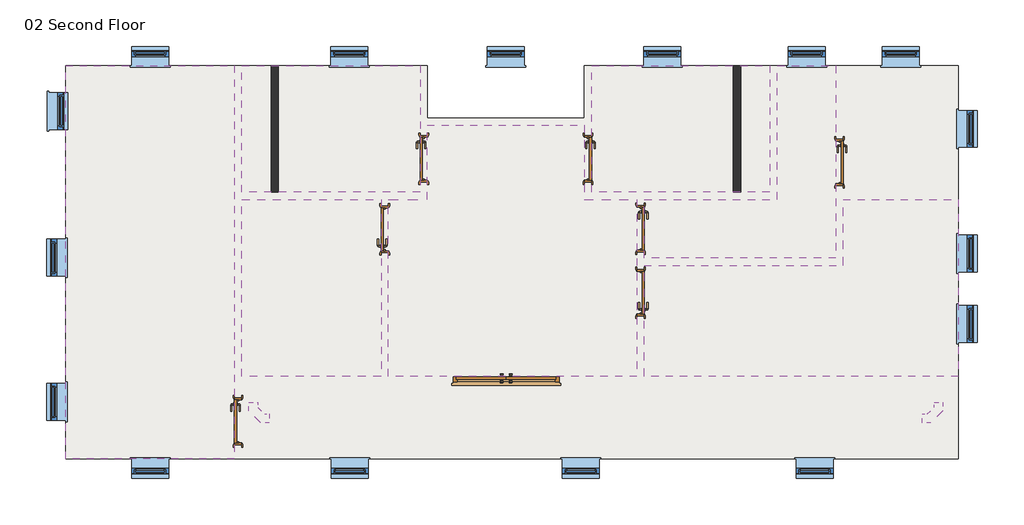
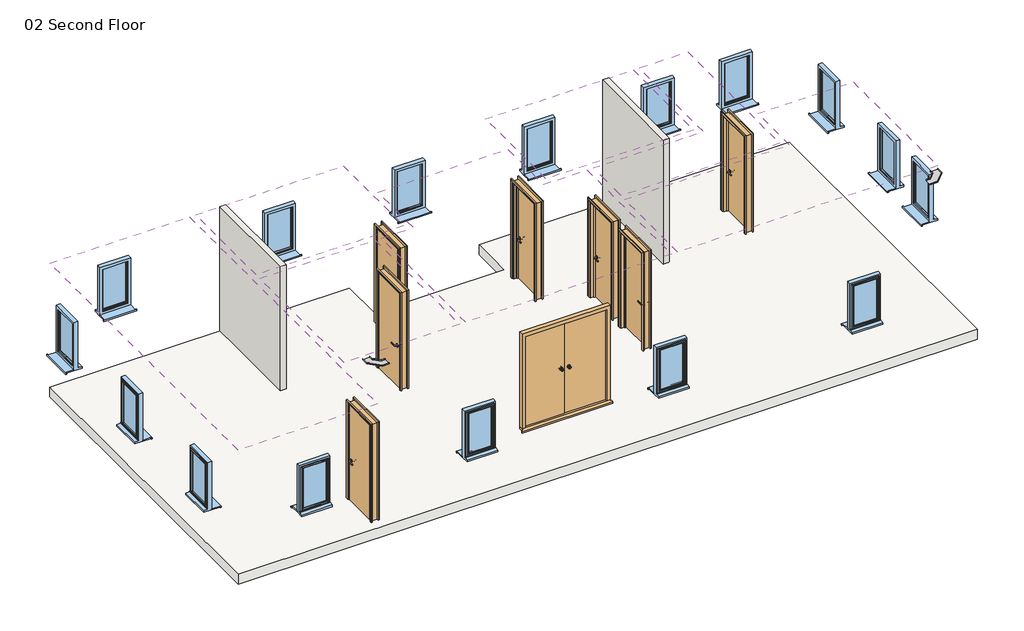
# One storey: 16 windows, 8 doors, 7 coverings, 2 cable carrier fittings, 2 walls, 1 slab.
"""IFC4 building model written with IfcOpenShell, lengths in millimetres."""

from ifc_helpers import new_model, si_unit, frame, origin, place, context, project, spatial, polyline, outline, extrude, transform, mapped, element, save
from components import cable_tray_horizontal_bend_standard_cea69160, extdbl_flush_1810_x_2110mm_182ebfd7, intsgl_1_810_x_2110mm_5ef26f82, intsgl_1_810_x_2110mm_60c2a13c, sgl_plain_630_x_1050mm_deep_554a1539

model = new_model("IFC4")

# Units and contexts
model_context = context("Model", 3, world=origin())
ifc_project = project(units=[si_unit("LENGTHUNIT", "METRE", prefix="MILLI")], contexts=[model_context])

# Site, building, storey
site = spatial("IfcSite", under=ifc_project)
building = spatial("IfcBuilding", under=site)
storey = spatial("IfcBuildingStorey", under=building, Name="02 Second Floor", Elevation=4000.0)

# Cable carrier fittings
placement = place(None, origin())
cable_tray_horizontal_bend_standard_shape = cable_tray_horizontal_bend_standard_cea69160(model_context)
element("IfcCableCarrierFitting", 1, ObjectType="Cable Tray Horizontal Bend : Standard", at=placement, inside=storey, context=model_context, shape_type="MappedRepresentation", body=[
    mapped(cable_tray_horizontal_bend_standard_shape, transform((8567.076402, -4128.3205251, 7000.0), x_axis=(1.0, 0.0, 0.0), y_axis=(0.0, 1.0, 0.0), z_axis=(0.0, 0.0, 1.0))),
])
element("IfcCableCarrierFitting", 2, ObjectType="Cable Tray Horizontal Bend : Standard", at=placement, inside=storey, context=model_context, shape_type="MappedRepresentation", body=[
    mapped(cable_tray_horizontal_bend_standard_shape, transform((-3112.923598, -4128.3205251, 7000.0), x_axis=(0.0, -1.0, 0.0), y_axis=(1.0, 0.0, 0.0), z_axis=(0.0, 0.0, 1.0))),
])

# Coverings
element("IfcCovering", 3, ObjectType="600 x 600mm grid 2", at=placement, inside=storey, context=model_context, shape_type="SweptSolid", body=[
    extrude(outline(polyline([(-3433.0198612, 1889.6075821), (-3433.0198612, -4820.3924179), (-6308.0198612, -4820.3924179), (-6308.0198612, 1889.6075821), (-3433.0198612, 1889.6075821)])), frame((0.0, 0.0, 6700.0), z_axis=(0.0, 0.0, 1.0), x_axis=(1.0, 0.0, 0.0)), (0.0, 0.0, 1.0), 52.0),
])
element("IfcCovering", 4, ObjectType="600 x 600mm grid 2", at=placement, inside=storey, context=model_context, shape_type="SweptSolid", body=[
    extrude(outline(polyline([(-3308.0198612, 1889.6075821), (-270.5198612, 1889.6075821), (-270.5198612, -265.3924179), (-3308.0198612, -265.3924179), (-3308.0198612, 1889.6075821)])), frame((0.0, 0.0, 6700.0), z_axis=(0.0, 0.0, 1.0), x_axis=(1.0, 0.0, 0.0)), (0.0, 0.0, 1.0), 52.0),
])
element("IfcCovering", 5, ObjectType="600 x 600mm grid 2", at=placement, inside=storey, context=model_context, shape_type="SweptSolid", body=[
    extrude(outline(polyline([(-3308.0198612, -390.3924179), (-933.0198612, -390.3924179), (-933.0198612, -3407.8924179), (-3308.0198612, -3407.8924179), (-3308.0198612, -390.3924179)])), frame((0.0, 0.0, 6700.0), z_axis=(0.0, 0.0, 1.0), x_axis=(1.0, 0.0, 0.0)), (0.0, 0.0, 1.0), 52.0),
])
element("IfcCovering", 6, ObjectType="600 x 600mm grid 2", at=placement, inside=storey, context=model_context, shape_type="SweptSolid", body=[
    extrude(outline(polyline([(-808.0198612, -390.3924179), (-145.5198612, -390.3924179), (-145.5198612, 872.1075821), (2529.4801388, 872.1075821), (2529.4801388, -390.3924179), (3426.9801388, -390.3924179), (3426.9801388, -3407.8924179), (-808.0198612, -3407.8924179), (-808.0198612, -390.3924179)])), frame((0.0, 0.0, 6700.0), z_axis=(0.0, 0.0, 1.0), x_axis=(1.0, 0.0, 0.0)), (0.0, 0.0, 1.0), 52.0),
])
element("IfcCovering", 7, ObjectType="600 x 600mm grid 2", at=placement, inside=storey, context=model_context, shape_type="SweptSolid", body=[
    extrude(outline(polyline([(2654.4801388, 1889.6075821), (5691.9801388, 1889.6075821), (5691.9801388, -265.3924179), (2654.4801388, -265.3924179), (2654.4801388, 1889.6075821)])), frame((0.0, 0.0, 6700.0), z_axis=(0.0, 0.0, 1.0), x_axis=(1.0, 0.0, 0.0)), (0.0, 0.0, 1.0), 52.0),
])
element("IfcCovering", 8, ObjectType="600 x 600mm grid 2", at=placement, inside=storey, context=model_context, shape_type="SweptSolid", body=[
    extrude(outline(polyline([(5816.9801388, 1889.6075821), (6816.9801388, 1889.6075821), (6816.9801388, -1390.3924179), (3551.9801388, -1390.3924179), (3551.9801388, -390.3924179), (5816.9801388, -390.3924179), (5816.9801388, 1889.6075821)])), frame((0.0, 0.0, 6700.0), z_axis=(0.0, 0.0, 1.0), x_axis=(1.0, 0.0, 0.0)), (0.0, 0.0, 1.0), 52.0),
])
element("IfcCovering", 9, ObjectType="600 x 600mm grid 2", at=placement, inside=storey, context=model_context, shape_type="SweptSolid", body=[
    extrude(outline(polyline([(8901.9801388, -390.3924179), (8901.9801388, -3407.8924179), (3551.9801388, -3407.8924179), (3551.9801388, -1515.3924179), (6941.9801388, -1515.3924179), (6941.9801388, -390.3924179), (8901.9801388, -390.3924179)])), frame((0.0, 0.0, 6700.0), z_axis=(0.0, 0.0, 1.0), x_axis=(1.0, 0.0, 0.0)), (0.0, 0.0, 1.0), 52.0),
])

# Doors
extdbl_flush_1810_x_2110mm_shape = extdbl_flush_1810_x_2110mm_182ebfd7(model_context)
element("IfcDoor", 10, ObjectType="ExtDbl Flush : 1810 x 2110mm", at=placement, inside=storey, context=model_context, shape_type="MappedRepresentation", body=[
    mapped(extdbl_flush_1810_x_2110mm_shape, transform((1196.9801388, -3470.3924179, 4000.0), x_axis=(1.0, 0.0, 0.0), y_axis=(0.0, 1.0, 0.0), z_axis=(0.0, 0.0, 1.0))),
])
intsgl_1_810_x_2110mm_shape = intsgl_1_810_x_2110mm_5ef26f82(model_context)
element("IfcDoor", 11, ObjectType="IntSgl (1) : 810 x 2110mm", at=placement, inside=storey, context=model_context, shape_type="MappedRepresentation", body=[
    mapped(intsgl_1_810_x_2110mm_shape, transform((-208.0198612, 303.3575821, 4000.0), x_axis=(0.0, -1.0, 0.0), y_axis=(1.0, 0.0, 0.0), z_axis=(0.0, 0.0, 1.0))),
])
element("IfcDoor", 12, ObjectType="IntSgl (1) : 810 x 2110mm", at=placement, inside=storey, context=model_context, shape_type="MappedRepresentation", body=[
    mapped(intsgl_1_810_x_2110mm_shape, transform((3489.4801388, -1982.8924179, 4000.0), x_axis=(0.0, 1.0, 0.0), y_axis=(-1.0, 0.0, 0.0), z_axis=(0.0, 0.0, 1.0))),
])
intsgl_1_810_x_2110mm_2_shape = intsgl_1_810_x_2110mm_60c2a13c(model_context)
element("IfcDoor", 13, ObjectType="IntSgl (1) : 810 x 2110mm", at=placement, inside=storey, context=model_context, shape_type="MappedRepresentation", body=[
    mapped(intsgl_1_810_x_2110mm_2_shape, transform((2591.9801388, 303.3575821, 4000.0), x_axis=(0.0, -1.0, 0.0), y_axis=(1.0, 0.0, 0.0), z_axis=(0.0, 0.0, 1.0))),
])
element("IfcDoor", 14, ObjectType="IntSgl (1) : 810 x 2110mm", at=placement, inside=storey, context=model_context, shape_type="MappedRepresentation", body=[
    mapped(intsgl_1_810_x_2110mm_2_shape, transform((-870.5198612, -902.8924179, 4000.0), x_axis=(0.0, 1.0, 0.0), y_axis=(-1.0, 0.0, 0.0), z_axis=(0.0, 0.0, 1.0))),
])
element("IfcDoor", 15, ObjectType="IntSgl (1) : 810 x 2110mm", at=placement, inside=storey, context=model_context, shape_type="MappedRepresentation", body=[
    mapped(intsgl_1_810_x_2110mm_2_shape, transform((3489.4801388, -890.3924179, 4000.0), x_axis=(0.0, -1.0, 0.0), y_axis=(1.0, 0.0, 0.0), z_axis=(0.0, 0.0, 1.0))),
])
element("IfcDoor", 16, ObjectType="IntSgl (1) : 810 x 2110mm", at=placement, inside=storey, context=model_context, shape_type="MappedRepresentation", body=[
    mapped(intsgl_1_810_x_2110mm_shape, transform((-3370.5198612, -4176.6424179, 4000.0), x_axis=(0.0, -1.0, 0.0), y_axis=(1.0, 0.0, 0.0), z_axis=(0.0, 0.0, 1.0))),
])
element("IfcDoor", 17, ObjectType="IntSgl (1) : 810 x 2110mm", at=placement, inside=storey, context=model_context, shape_type="MappedRepresentation", body=[
    mapped(intsgl_1_810_x_2110mm_2_shape, transform((6879.4801388, 239.6075821, 4000.0), x_axis=(0.0, -1.0, 0.0), y_axis=(1.0, 0.0, 0.0), z_axis=(0.0, 0.0, 1.0))),
])

# Slab
element("IfcSlab", 18, ObjectType="160mm Concrete with Corus-ComFlor 51", at=placement, inside=storey, context=model_context, shape_type="SweptSolid", body=[
    extrude(outline(polyline([(8901.9801388, -4820.3924179), (-6308.0198612, -4820.3924179), (-6308.0198612, 1889.6075821), (-145.5198612, 1889.6075821), (-145.5198612, 997.1075821), (2529.4801388, 997.1075821), (2529.4801388, 1889.6075821), (8901.9801388, 1889.6075821), (8901.9801388, -4820.3924179)])), frame((0.0, 0.0, 3789.0), z_axis=(0.0, 0.0, 1.0), x_axis=(1.0, 0.0, 0.0)), (0.0, 0.0, 1.0), 211.0),
])

# Walls
element("IfcWall", 19, ObjectType="Partn - p 100 p - Block", at=placement, inside=storey, context=model_context, shape_type="SweptSolid", body=[
    extrude(outline(polyline([(5066.9801388, -265.3924179), (5066.9801388, 1889.6075821), (5191.9801388, 1889.6075821), (5191.9801388, -265.3924179), (5066.9801388, -265.3924179)])), frame((0.0, 0.0, 4000.0), z_axis=(0.0, 0.0, 1.0), x_axis=(1.0, 0.0, 0.0)), (0.0, 0.0, 1.0), 2700.0),
])
element("IfcWall", 20, ObjectType="Partn - p 100 p - Block", at=placement, inside=storey, context=model_context, shape_type="SweptSolid", body=[
    extrude(outline(polyline([(-2683.0198612, 1889.6075821), (-2683.0198612, -265.3924179), (-2808.0198612, -265.3924179), (-2808.0198612, 1889.6075821), (-2683.0198612, 1889.6075821)])), frame((0.0, 0.0, 4000.0), z_axis=(0.0, 0.0, 1.0), x_axis=(1.0, 0.0, 0.0)), (0.0, 0.0, 1.0), 2700.0),
])

# Windows
sgl_plain_630_x_1050mm_deep_shape = sgl_plain_630_x_1050mm_deep_554a1539(model_context)
element("IfcWindow", 21, ObjectType="Sgl Plain : 630 x 1050mm Deep", at=placement, inside=storey, context=model_context, shape_type="MappedRepresentation", body=[
    mapped(sgl_plain_630_x_1050mm_deep_shape, transform((-6461.476429, 1117.4075821, 4000.0), x_axis=(0.0, -1.0, 0.0), y_axis=(1.0, 0.0, 0.0), z_axis=(0.0, 0.0, 1.0))),
])
element("IfcWindow", 22, ObjectType="Sgl Plain : 630 x 1050mm Deep", at=placement, inside=storey, context=model_context, shape_type="MappedRepresentation", body=[
    mapped(sgl_plain_630_x_1050mm_deep_shape, transform((6453.3801388, -4956.9358501, 4000.0), x_axis=(-1.0, 0.0, 0.0), y_axis=(0.0, -1.0, 0.0), z_axis=(0.0, 0.0, 1.0))),
])
element("IfcWindow", 23, ObjectType="Sgl Plain : 630 x 1050mm Deep", at=placement, inside=storey, context=model_context, shape_type="MappedRepresentation", body=[
    mapped(sgl_plain_630_x_1050mm_deep_shape, transform((2470.5801388, -4956.9358501, 4000.0), x_axis=(-1.0, 0.0, 0.0), y_axis=(0.0, -1.0, 0.0), z_axis=(0.0, 0.0, 1.0))),
])
element("IfcWindow", 24, ObjectType="Sgl Plain : 630 x 1050mm Deep", at=placement, inside=storey, context=model_context, shape_type="MappedRepresentation", body=[
    mapped(sgl_plain_630_x_1050mm_deep_shape, transform((-1469.0198612, -4956.9358501, 4000.0), x_axis=(-1.0, 0.0, 0.0), y_axis=(0.0, -1.0, 0.0), z_axis=(0.0, 0.0, 1.0))),
])
element("IfcWindow", 25, ObjectType="Sgl Plain : 630 x 1050mm Deep", at=placement, inside=storey, context=model_context, shape_type="MappedRepresentation", body=[
    mapped(sgl_plain_630_x_1050mm_deep_shape, transform((-4870.5198612, -4956.9358501, 4000.0), x_axis=(-1.0, 0.0, 0.0), y_axis=(0.0, -1.0, 0.0), z_axis=(0.0, 0.0, 1.0))),
])
element("IfcWindow", 26, ObjectType="Sgl Plain : 630 x 1050mm Deep", at=placement, inside=storey, context=model_context, shape_type="MappedRepresentation", body=[
    mapped(sgl_plain_630_x_1050mm_deep_shape, transform((-6444.5632933, -3844.9924179, 4000.0), x_axis=(0.0, 1.0, 0.0), y_axis=(-1.0, 0.0, 0.0), z_axis=(0.0, 0.0, 1.0))),
])
element("IfcWindow", 27, ObjectType="Sgl Plain : 630 x 1050mm Deep", at=placement, inside=storey, context=model_context, shape_type="MappedRepresentation", body=[
    mapped(sgl_plain_630_x_1050mm_deep_shape, transform((-6444.5632933, -1386.1924179, 4000.0), x_axis=(0.0, 1.0, 0.0), y_axis=(-1.0, 0.0, 0.0), z_axis=(0.0, 0.0, 1.0))),
])
element("IfcWindow", 28, ObjectType="Sgl Plain : 630 x 1050mm Deep", at=placement, inside=storey, context=model_context, shape_type="MappedRepresentation", body=[
    mapped(sgl_plain_630_x_1050mm_deep_shape, transform((-4870.5198612, 2026.1510143, 4000.0), x_axis=(1.0, 0.0, 0.0), y_axis=(0.0, 1.0, 0.0), z_axis=(0.0, 0.0, 1.0))),
])
element("IfcWindow", 29, ObjectType="Sgl Plain : 630 x 1050mm Deep", at=placement, inside=storey, context=model_context, shape_type="MappedRepresentation", body=[
    mapped(sgl_plain_630_x_1050mm_deep_shape, transform((-1476.7698612, 2026.1510143, 4000.0), x_axis=(1.0, 0.0, 0.0), y_axis=(0.0, 1.0, 0.0), z_axis=(0.0, 0.0, 1.0))),
])
element("IfcWindow", 30, ObjectType="Sgl Plain : 630 x 1050mm Deep", at=placement, inside=storey, context=model_context, shape_type="MappedRepresentation", body=[
    mapped(sgl_plain_630_x_1050mm_deep_shape, transform((1191.9801388, 2026.1510143, 4000.0), x_axis=(1.0, 0.0, 0.0), y_axis=(0.0, 1.0, 0.0), z_axis=(0.0, 0.0, 1.0))),
])
element("IfcWindow", 31, ObjectType="Sgl Plain : 630 x 1050mm Deep", at=placement, inside=storey, context=model_context, shape_type="MappedRepresentation", body=[
    mapped(sgl_plain_630_x_1050mm_deep_shape, transform((3860.7301388, 2026.1510143, 4000.0), x_axis=(1.0, 0.0, 0.0), y_axis=(0.0, 1.0, 0.0), z_axis=(0.0, 0.0, 1.0))),
])
element("IfcWindow", 32, ObjectType="Sgl Plain : 630 x 1050mm Deep", at=placement, inside=storey, context=model_context, shape_type="MappedRepresentation", body=[
    mapped(sgl_plain_630_x_1050mm_deep_shape, transform((6316.9801388, 2026.1510143, 4000.0), x_axis=(1.0, 0.0, 0.0), y_axis=(0.0, 1.0, 0.0), z_axis=(0.0, 0.0, 1.0))),
])
element("IfcWindow", 33, ObjectType="Sgl Plain : 630 x 1050mm Deep", at=placement, inside=storey, context=model_context, shape_type="MappedRepresentation", body=[
    mapped(sgl_plain_630_x_1050mm_deep_shape, transform((7921.9801388, 2026.1510143, 4000.0), x_axis=(1.0, 0.0, 0.0), y_axis=(0.0, 1.0, 0.0), z_axis=(0.0, 0.0, 1.0))),
])
element("IfcWindow", 34, ObjectType="Sgl Plain : 630 x 1050mm Deep", at=placement, inside=storey, context=model_context, shape_type="MappedRepresentation", body=[
    mapped(sgl_plain_630_x_1050mm_deep_shape, transform((9038.523571, 812.1075821, 4000.0), x_axis=(0.0, -1.0, 0.0), y_axis=(1.0, 0.0, 0.0), z_axis=(0.0, 0.0, 1.0))),
])
element("IfcWindow", 35, ObjectType="Sgl Plain : 630 x 1050mm Deep", at=placement, inside=storey, context=model_context, shape_type="MappedRepresentation", body=[
    mapped(sgl_plain_630_x_1050mm_deep_shape, transform((9038.523571, -1314.9924179, 4000.0), x_axis=(0.0, -1.0, 0.0), y_axis=(1.0, 0.0, 0.0), z_axis=(0.0, 0.0, 1.0))),
])
element("IfcWindow", 36, ObjectType="Sgl Plain : 630 x 1050mm Deep", at=placement, inside=storey, context=model_context, shape_type="MappedRepresentation", body=[
    mapped(sgl_plain_630_x_1050mm_deep_shape, transform((9038.523571, -2518.9424179, 4000.0), x_axis=(0.0, -1.0, 0.0), y_axis=(1.0, 0.0, 0.0), z_axis=(0.0, 0.0, 1.0))),
])

save(model, "model.ifc")
